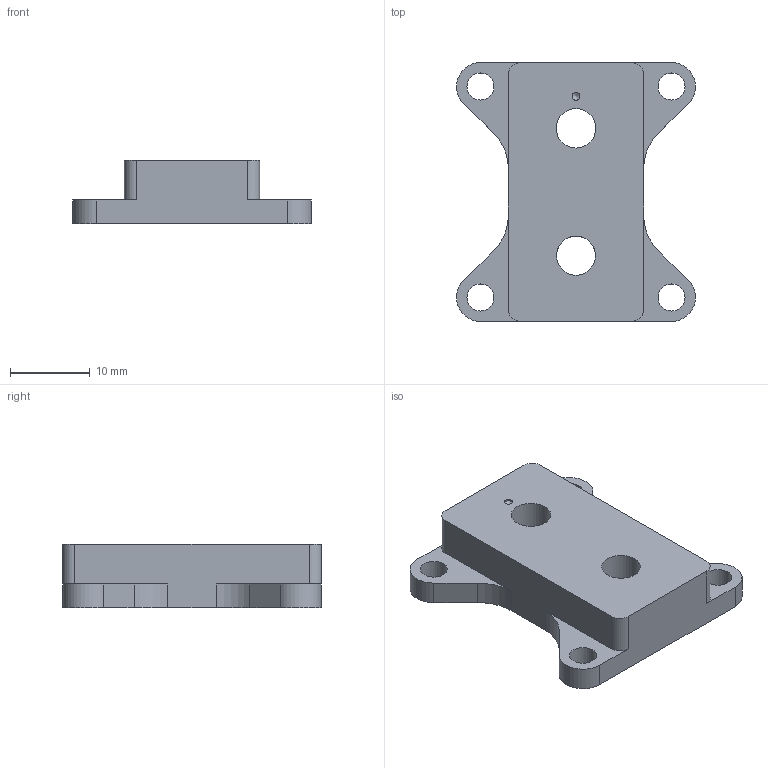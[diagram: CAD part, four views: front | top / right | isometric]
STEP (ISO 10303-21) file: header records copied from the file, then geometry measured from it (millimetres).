
FILE_DESCRIPTION(/* description */ ('TripodAdapter'),/* implementation_level */ '2;1');
FILE_NAME(/* name */ 'KSM_317-25-00-00-04_TripodAdapter 24x26,5.stp',/* time_stamp */ '2026-06-21T21:56:20+02:00',/* author */ ('khw'),/* organization */ ('TIS/ Germany'),/* preprocessor_version */ 'ST-DEVELOPER v20',/* originating_system */ 'Autodesk Inventor 2025',/* authorisation */ '6767,5 mm^3');
FILE_SCHEMA (('AUTOMOTIVE_DESIGN { 1 0 10303 214 3 1 1 }'));
Length unit declared in the file: millimetre
Products named in the file (1): KSM_317-25-00-00-04_TripodAdapter 24x26,5
Bounding box: 29.99 x 32.5 x 8 mm (x, y, z)
Volume: 4561.8 mm3; surface area: 2581.2 mm2
Topology: 1 solids, 1 shells, 34 faces, 95 edges, 63 vertices
Faces by surface type: cylinder 19, plane 14, cone 1
Full cylindrical faces by diameter (mm): 1 x1, 3.4 x4, 4.917 x1, 4.978 x1
Entity records: 1171 total; most frequent: DIRECTION 202, CARTESIAN_POINT 192, ORIENTED_EDGE 188, EDGE_CURVE 94, AXIS2_PLACEMENT_3D 73, VERTEX_POINT 63, LINE 56, VECTOR 56
